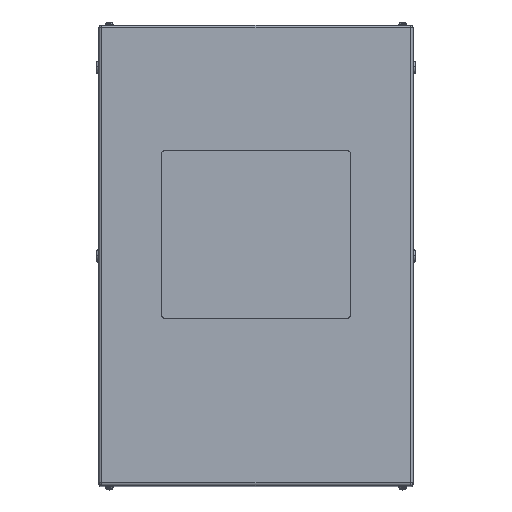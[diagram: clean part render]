
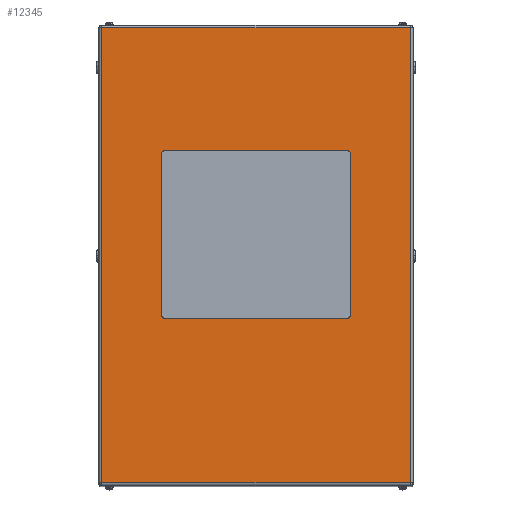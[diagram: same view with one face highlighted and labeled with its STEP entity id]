
A CAD part, top view. The second image highlights one B-rep face of the part: STEP entity #12345.
In plain terms, the highlighted planar face has unit normal (0, 0, 1).
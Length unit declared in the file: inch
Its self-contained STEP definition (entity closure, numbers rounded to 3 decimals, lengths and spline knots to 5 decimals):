
#107 = VECTOR ( 'NONE', #4645, 39.37008 ) ;
#152 = EDGE_LOOP ( 'NONE', ( #22045, #4883, #21136, #5182, #18301, #976, #5890, #9673 ) ) ;
#470 = CARTESIAN_POINT ( 'NONE',  ( 9., 9.75, 33.5 ) ) ;
#976 = ORIENTED_EDGE ( 'NONE', *, *, #20253, .F. ) ;
#1001 = LINE ( 'NONE', #15424, #13166 ) ;
#2278 = CARTESIAN_POINT ( 'NONE',  ( -8.75, -5.75, 33.5 ) ) ;
#2474 = AXIS2_PLACEMENT_3D ( 'NONE', #13375, #9509, #7821 ) ;
#3601 = CARTESIAN_POINT ( 'NONE',  ( -8.75, 10., 33.5 ) ) ;
#3707 = DIRECTION ( 'NONE',  ( -1., 0., 0. ) ) ;
#3880 = LINE ( 'NONE', #470, #12565 ) ;
#4275 = EDGE_CURVE ( 'NONE', #6383, #13052, #1001, .T. ) ;
#4310 = EDGE_CURVE ( 'NONE', #18859, #15818, #20895, .T. ) ;
#4645 = DIRECTION ( 'NONE',  ( 0., 1., 0. ) ) ;
#4883 = ORIENTED_EDGE ( 'NONE', *, *, #6710, .F. ) ;
#5162 = CARTESIAN_POINT ( 'NONE',  ( -14.734, -21.734, 33.5 ) ) ;
#5182 = ORIENTED_EDGE ( 'NONE', *, *, #5586, .F. ) ;
#5330 = VERTEX_POINT ( 'NONE', #19501 ) ;
#5461 = DIRECTION ( 'NONE',  ( 0., 0., 1. ) ) ;
#5586 = EDGE_CURVE ( 'NONE', #15818, #6383, #20873, .T. ) ;
#5593 = ORIENTED_EDGE ( 'NONE', *, *, #11236, .T. ) ;
#5606 = LINE ( 'NONE', #10894, #17099 ) ;
#5890 = ORIENTED_EDGE ( 'NONE', *, *, #8344, .F. ) ;
#6383 = VERTEX_POINT ( 'NONE', #10653 ) ;
#6384 = LINE ( 'NONE', #21850, #20725 ) ;
#6710 = EDGE_CURVE ( 'NONE', #13052, #14882, #12643, .T. ) ;
#7135 = FACE_OUTER_BOUND ( 'NONE', #7774, .T. ) ;
#7260 = DIRECTION ( 'NONE',  ( 1., 0., 0. ) ) ;
#7602 = ORIENTED_EDGE ( 'NONE', *, *, #14497, .T. ) ;
#7774 = EDGE_LOOP ( 'NONE', ( #14757, #14416, #5593, #7602 ) ) ;
#7821 = DIRECTION ( 'NONE',  ( -1., 0., 0. ) ) ;
#8000 = LINE ( 'NONE', #11431, #107 ) ;
#8019 = DIRECTION ( 'NONE',  ( 1., 0., 0. ) ) ;
#8344 = EDGE_CURVE ( 'NONE', #9680, #5330, #3880, .T. ) ;
#8391 = VERTEX_POINT ( 'NONE', #15008 ) ;
#8457 = VERTEX_POINT ( 'NONE', #20152 ) ;
#8542 = DIRECTION ( 'NONE',  ( 1., 0., 0. ) ) ;
#9155 = VECTOR ( 'NONE', #3707, 39.37008 ) ;
#9219 = AXIS2_PLACEMENT_3D ( 'NONE', #21061, #5461, #19247 ) ;
#9220 = DIRECTION ( 'NONE',  ( 1., 0., 0. ) ) ;
#9279 = LINE ( 'NONE', #12483, #15259 ) ;
#9509 = DIRECTION ( 'NONE',  ( 0., 0., 1. ) ) ;
#9673 = ORIENTED_EDGE ( 'NONE', *, *, #16341, .F. ) ;
#9680 = VERTEX_POINT ( 'NONE', #17853 ) ;
#10135 = PLANE ( 'NONE',  #14305 ) ;
#10359 = DIRECTION ( 'NONE',  ( -1., 0., 0. ) ) ;
#10363 = CARTESIAN_POINT ( 'NONE',  ( 14.734, -21.734, 33.5 ) ) ;
#10577 = CARTESIAN_POINT ( 'NONE',  ( 15., 22., 33.5 ) ) ;
#10653 = CARTESIAN_POINT ( 'NONE',  ( -9., 9.75, 33.5 ) ) ;
#10740 = AXIS2_PLACEMENT_3D ( 'NONE', #12403, #12193, #7260 ) ;
#10766 = DIRECTION ( 'NONE',  ( 0., 1., 0. ) ) ;
#10894 = CARTESIAN_POINT ( 'NONE',  ( 15., 21.734, 33.5 ) ) ;
#11078 = DIRECTION ( 'NONE',  ( 0., 0., 1. ) ) ;
#11236 = EDGE_CURVE ( 'NONE', #8457, #18787, #8000, .T. ) ;
#11431 = CARTESIAN_POINT ( 'NONE',  ( 14.734, 22., 33.5 ) ) ;
#12193 = DIRECTION ( 'NONE',  ( 0., 0., 1. ) ) ;
#12345 = ADVANCED_FACE ( 'NONE', ( #18755, #7135 ), #10135, .F. ) ;
#12403 = CARTESIAN_POINT ( 'NONE',  ( -8.75, 9.75, 33.5 ) ) ;
#12483 = CARTESIAN_POINT ( 'NONE',  ( -14.734, 22., 33.5 ) ) ;
#12539 = CARTESIAN_POINT ( 'NONE',  ( -9., -5.75, 33.5 ) ) ;
#12565 = VECTOR ( 'NONE', #10766, 39.37008 ) ;
#12643 = CIRCLE ( 'NONE', #22051, 0.25 ) ;
#13052 = VERTEX_POINT ( 'NONE', #12539 ) ;
#13166 = VECTOR ( 'NONE', #17216, 39.37008 ) ;
#13209 = EDGE_CURVE ( 'NONE', #8391, #18821, #9279, .T. ) ;
#13375 = CARTESIAN_POINT ( 'NONE',  ( 8.75, 9.75, 33.5 ) ) ;
#13754 = EDGE_CURVE ( 'NONE', #18821, #8457, #19303, .T. ) ;
#13953 = CARTESIAN_POINT ( 'NONE',  ( -8.75, -6., 33.5 ) ) ;
#14305 = AXIS2_PLACEMENT_3D ( 'NONE', #10577, #17435, #10359 ) ;
#14416 = ORIENTED_EDGE ( 'NONE', *, *, #13754, .T. ) ;
#14497 = EDGE_CURVE ( 'NONE', #18787, #8391, #5606, .T. ) ;
#14757 = ORIENTED_EDGE ( 'NONE', *, *, #13209, .T. ) ;
#14882 = VERTEX_POINT ( 'NONE', #13953 ) ;
#15008 = CARTESIAN_POINT ( 'NONE',  ( -14.734, 21.734, 33.5 ) ) ;
#15259 = VECTOR ( 'NONE', #19860, 39.37008 ) ;
#15410 = CARTESIAN_POINT ( 'NONE',  ( 8.75, 10., 33.5 ) ) ;
#15424 = CARTESIAN_POINT ( 'NONE',  ( -9., 9.75, 33.5 ) ) ;
#15818 = VERTEX_POINT ( 'NONE', #20153 ) ;
#15895 = EDGE_CURVE ( 'NONE', #14882, #19172, #6384, .T. ) ;
#16296 = CARTESIAN_POINT ( 'NONE',  ( 14.734, 21.734, 33.5 ) ) ;
#16341 = EDGE_CURVE ( 'NONE', #19172, #9680, #19034, .T. ) ;
#17099 = VECTOR ( 'NONE', #19726, 39.37008 ) ;
#17216 = DIRECTION ( 'NONE',  ( 0., -1., 0. ) ) ;
#17308 = CIRCLE ( 'NONE', #2474, 0.25 ) ;
#17435 = DIRECTION ( 'NONE',  ( 0., 0., -1. ) ) ;
#17853 = CARTESIAN_POINT ( 'NONE',  ( 9., -5.75, 33.5 ) ) ;
#18301 = ORIENTED_EDGE ( 'NONE', *, *, #4310, .F. ) ;
#18755 = FACE_BOUND ( 'NONE', #152, .T. ) ;
#18787 = VERTEX_POINT ( 'NONE', #16296 ) ;
#18821 = VERTEX_POINT ( 'NONE', #5162 ) ;
#18859 = VERTEX_POINT ( 'NONE', #15410 ) ;
#18971 = VECTOR ( 'NONE', #8542, 39.37008 ) ;
#19034 = CIRCLE ( 'NONE', #9219, 0.25 ) ;
#19172 = VERTEX_POINT ( 'NONE', #20105 ) ;
#19247 = DIRECTION ( 'NONE',  ( 1., 0., 0. ) ) ;
#19303 = LINE ( 'NONE', #10363, #18971 ) ;
#19501 = CARTESIAN_POINT ( 'NONE',  ( 9., 9.75, 33.5 ) ) ;
#19726 = DIRECTION ( 'NONE',  ( -1., 0., 0. ) ) ;
#19860 = DIRECTION ( 'NONE',  ( 0., -1., 0. ) ) ;
#20105 = CARTESIAN_POINT ( 'NONE',  ( 8.75, -6., 33.5 ) ) ;
#20152 = CARTESIAN_POINT ( 'NONE',  ( 14.734, -21.734, 33.5 ) ) ;
#20153 = CARTESIAN_POINT ( 'NONE',  ( -8.75, 10., 33.5 ) ) ;
#20253 = EDGE_CURVE ( 'NONE', #5330, #18859, #17308, .T. ) ;
#20725 = VECTOR ( 'NONE', #8019, 39.37008 ) ;
#20873 = CIRCLE ( 'NONE', #10740, 0.25 ) ;
#20895 = LINE ( 'NONE', #3601, #9155 ) ;
#21061 = CARTESIAN_POINT ( 'NONE',  ( 8.75, -5.75, 33.5 ) ) ;
#21136 = ORIENTED_EDGE ( 'NONE', *, *, #4275, .F. ) ;
#21850 = CARTESIAN_POINT ( 'NONE',  ( -8.75, -6., 33.5 ) ) ;
#22045 = ORIENTED_EDGE ( 'NONE', *, *, #15895, .F. ) ;
#22051 = AXIS2_PLACEMENT_3D ( 'NONE', #2278, #11078, #9220 ) ;
